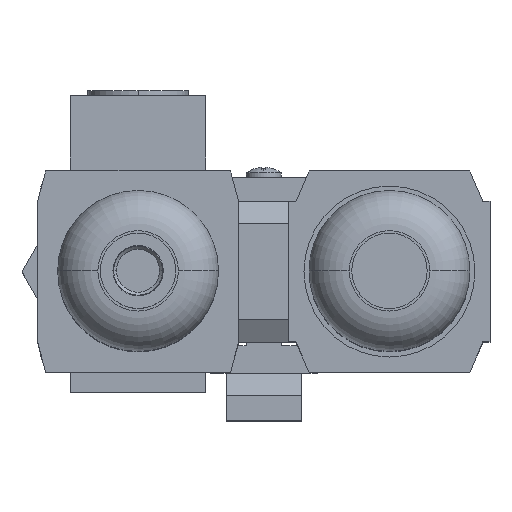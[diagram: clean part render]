
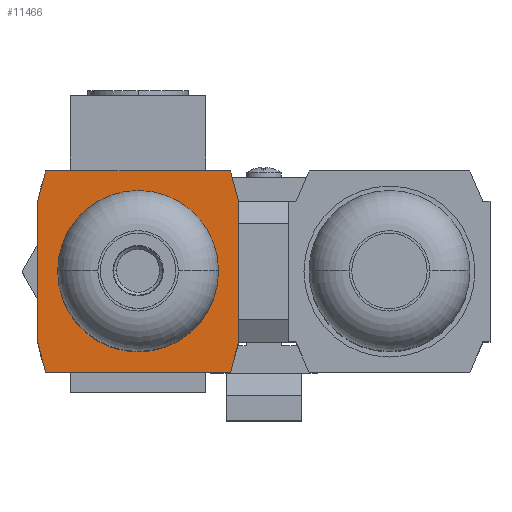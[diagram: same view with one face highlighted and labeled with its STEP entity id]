
A CAD part, top view. The second image highlights one B-rep face of the part: STEP entity #11466.
In plain terms, the highlighted planar face has unit normal (0, 0, 1).
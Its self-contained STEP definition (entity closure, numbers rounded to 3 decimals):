
#13 = DIRECTION ( 'NONE',  ( 0., 0., -1. ) ) ;
#41 = CARTESIAN_POINT ( 'NONE',  ( -20., 14., 0. ) ) ;
#296 = CARTESIAN_POINT ( 'NONE',  ( 18.39, -20., 0. ) ) ;
#526 = LINE ( 'NONE', #10154, #14628 ) ;
#558 = VERTEX_POINT ( 'NONE', #9306 ) ;
#953 = VECTOR ( 'NONE', #1545, 1000. ) ;
#1009 = CARTESIAN_POINT ( 'NONE',  ( 20., -14., 0. ) ) ;
#1276 = ORIENTED_EDGE ( 'NONE', *, *, #13344, .F. ) ;
#1313 = CARTESIAN_POINT ( 'NONE',  ( 18.39, -20., 0. ) ) ;
#1476 = VERTEX_POINT ( 'NONE', #4548 ) ;
#1545 = DIRECTION ( 'NONE',  ( 0.259, -0.966, 0. ) ) ;
#1726 = VECTOR ( 'NONE', #14896, 1000. ) ;
#1729 = DIRECTION ( 'NONE',  ( 0., 0., -1. ) ) ;
#1736 = EDGE_CURVE ( 'NONE', #13288, #8692, #526, .T. ) ;
#1757 = DIRECTION ( 'NONE',  ( -0.259, 0.966, 0. ) ) ;
#2391 = CIRCLE ( 'NONE', #8559, 15. ) ;
#2678 = AXIS2_PLACEMENT_3D ( 'NONE', #11711, #13, #7183 ) ;
#2970 = CARTESIAN_POINT ( 'NONE',  ( 0., 0., 0. ) ) ;
#3006 = VERTEX_POINT ( 'NONE', #1009 ) ;
#3222 = VERTEX_POINT ( 'NONE', #296 ) ;
#3402 = CARTESIAN_POINT ( 'NONE',  ( -20., -14., 0. ) ) ;
#3412 = LINE ( 'NONE', #7902, #4392 ) ;
#3509 = CARTESIAN_POINT ( 'NONE',  ( 20., 14., 0. ) ) ;
#3632 = ORIENTED_EDGE ( 'NONE', *, *, #13070, .F. ) ;
#4139 = VECTOR ( 'NONE', #11718, 1000. ) ;
#4181 = AXIS2_PLACEMENT_3D ( 'NONE', #2970, #1729, #7674 ) ;
#4392 = VECTOR ( 'NONE', #12420, 1000. ) ;
#4478 = ORIENTED_EDGE ( 'NONE', *, *, #8765, .T. ) ;
#4486 = ORIENTED_EDGE ( 'NONE', *, *, #1736, .F. ) ;
#4548 = CARTESIAN_POINT ( 'NONE',  ( -20., 14., 0. ) ) ;
#4595 = CIRCLE ( 'NONE', #2678, 15. ) ;
#4758 = EDGE_LOOP ( 'NONE', ( #6260, #4478 ) ) ;
#4843 = DIRECTION ( 'NONE',  ( -0.259, -0.966, 0. ) ) ;
#4888 = VERTEX_POINT ( 'NONE', #3509 ) ;
#5080 = VECTOR ( 'NONE', #4843, 1000. ) ;
#5154 = VECTOR ( 'NONE', #7280, 1000. ) ;
#5555 = VERTEX_POINT ( 'NONE', #13269 ) ;
#5717 = ORIENTED_EDGE ( 'NONE', *, *, #5719, .F. ) ;
#5719 = EDGE_CURVE ( 'NONE', #3006, #3222, #9559, .T. ) ;
#6260 = ORIENTED_EDGE ( 'NONE', *, *, #9443, .T. ) ;
#7027 = VECTOR ( 'NONE', #8946, 1000. ) ;
#7183 = DIRECTION ( 'NONE',  ( 1., 0., 0. ) ) ;
#7258 = EDGE_CURVE ( 'NONE', #5555, #9625, #10171, .T. ) ;
#7280 = DIRECTION ( 'NONE',  ( 0.259, 0.966, 0. ) ) ;
#7450 = ORIENTED_EDGE ( 'NONE', *, *, #7258, .F. ) ;
#7549 = EDGE_LOOP ( 'NONE', ( #9905, #4486, #9181, #5717, #1276, #11393, #7450, #3632 ) ) ;
#7674 = DIRECTION ( 'NONE',  ( 1., 0., 0. ) ) ;
#7810 = FACE_OUTER_BOUND ( 'NONE', #7549, .T. ) ;
#7902 = CARTESIAN_POINT ( 'NONE',  ( -20., -14., 0. ) ) ;
#8137 = CARTESIAN_POINT ( 'NONE',  ( -18.39, -20., 0. ) ) ;
#8559 = AXIS2_PLACEMENT_3D ( 'NONE', #10086, #10224, #14928 ) ;
#8692 = VERTEX_POINT ( 'NONE', #3402 ) ;
#8765 = EDGE_CURVE ( 'NONE', #558, #12370, #4595, .T. ) ;
#8824 = PLANE ( 'NONE',  #4181 ) ;
#8946 = DIRECTION ( 'NONE',  ( 1., 0., 0. ) ) ;
#8965 = FACE_BOUND ( 'NONE', #4758, .T. ) ;
#9181 = ORIENTED_EDGE ( 'NONE', *, *, #12181, .F. ) ;
#9202 = LINE ( 'NONE', #13654, #1726 ) ;
#9250 = CARTESIAN_POINT ( 'NONE',  ( -18.39, 20., 0. ) ) ;
#9306 = CARTESIAN_POINT ( 'NONE',  ( 15., 0., 0. ) ) ;
#9443 = EDGE_CURVE ( 'NONE', #12370, #558, #2391, .T. ) ;
#9559 = LINE ( 'NONE', #14030, #5080 ) ;
#9625 = VERTEX_POINT ( 'NONE', #13133 ) ;
#9867 = CARTESIAN_POINT ( 'NONE',  ( 18.39, 20., 0. ) ) ;
#9905 = ORIENTED_EDGE ( 'NONE', *, *, #12110, .F. ) ;
#10075 = EDGE_CURVE ( 'NONE', #9625, #4888, #13252, .T. ) ;
#10086 = CARTESIAN_POINT ( 'NONE',  ( 0., 0., 0. ) ) ;
#10154 = CARTESIAN_POINT ( 'NONE',  ( -18.39, -20., 0. ) ) ;
#10171 = LINE ( 'NONE', #9250, #7027 ) ;
#10224 = DIRECTION ( 'NONE',  ( 0., 0., -1. ) ) ;
#10578 = LINE ( 'NONE', #1313, #4139 ) ;
#11393 = ORIENTED_EDGE ( 'NONE', *, *, #10075, .F. ) ;
#11466 = ADVANCED_FACE ( 'NONE', ( #7810, #8965 ), #8824, .F. ) ;
#11711 = CARTESIAN_POINT ( 'NONE',  ( 0., 0., 0. ) ) ;
#11718 = DIRECTION ( 'NONE',  ( -1., 0., 0. ) ) ;
#12110 = EDGE_CURVE ( 'NONE', #8692, #1476, #3412, .T. ) ;
#12181 = EDGE_CURVE ( 'NONE', #3222, #13288, #10578, .T. ) ;
#12370 = VERTEX_POINT ( 'NONE', #14636 ) ;
#12420 = DIRECTION ( 'NONE',  ( 0., 1., 0. ) ) ;
#13070 = EDGE_CURVE ( 'NONE', #1476, #5555, #13188, .T. ) ;
#13133 = CARTESIAN_POINT ( 'NONE',  ( 18.39, 20., 0. ) ) ;
#13188 = LINE ( 'NONE', #41, #5154 ) ;
#13252 = LINE ( 'NONE', #9867, #953 ) ;
#13269 = CARTESIAN_POINT ( 'NONE',  ( -18.39, 20., 0. ) ) ;
#13288 = VERTEX_POINT ( 'NONE', #8137 ) ;
#13344 = EDGE_CURVE ( 'NONE', #4888, #3006, #9202, .T. ) ;
#13654 = CARTESIAN_POINT ( 'NONE',  ( 20., 14., 0. ) ) ;
#14030 = CARTESIAN_POINT ( 'NONE',  ( 20., -14., 0. ) ) ;
#14628 = VECTOR ( 'NONE', #1757, 1000. ) ;
#14636 = CARTESIAN_POINT ( 'NONE',  ( -15., 0., 0. ) ) ;
#14896 = DIRECTION ( 'NONE',  ( 0., -1., 0. ) ) ;
#14928 = DIRECTION ( 'NONE',  ( 1., 0., 0. ) ) ;
